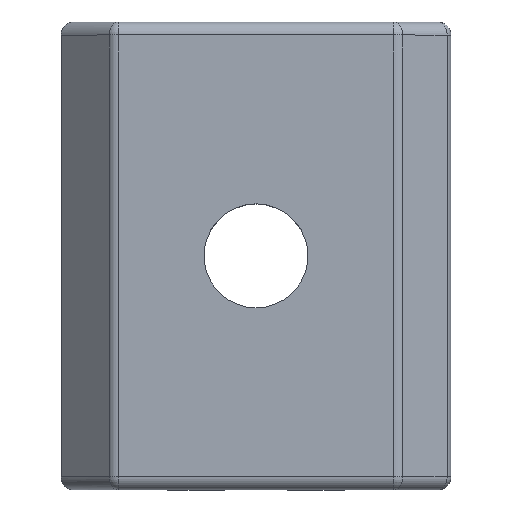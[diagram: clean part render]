
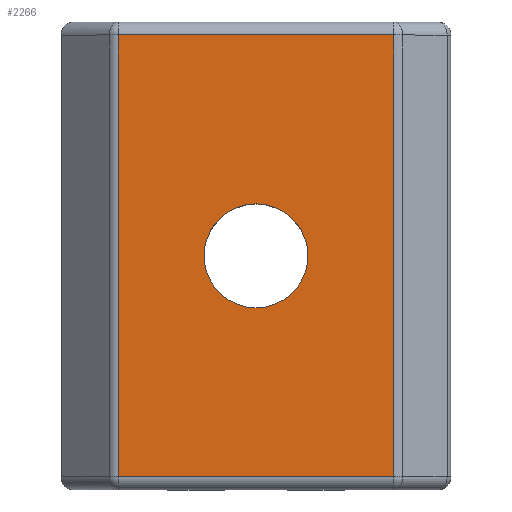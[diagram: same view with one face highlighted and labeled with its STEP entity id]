
A CAD part, top view. The second image highlights one B-rep face of the part: STEP entity #2266.
In plain terms, the highlighted planar face has unit normal (0, 0, 1).
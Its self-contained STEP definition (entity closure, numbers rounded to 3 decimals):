
#3 = EDGE_CURVE ( 'NONE', #253, #1891, #411, .T. ) ;
#118 = VECTOR ( 'NONE', #1510, 1000. ) ;
#134 = CARTESIAN_POINT ( 'NONE',  ( 9.193, -0.5, 1.528 ) ) ;
#173 = ORIENTED_EDGE ( 'NONE', *, *, #1071, .T. ) ;
#181 = CARTESIAN_POINT ( 'NONE',  ( 9.193, -17.5, 1.528 ) ) ;
#235 = LINE ( 'NONE', #1751, #1378 ) ;
#253 = VERTEX_POINT ( 'NONE', #181 ) ;
#341 = FACE_OUTER_BOUND ( 'NONE', #1622, .T. ) ;
#347 = CIRCLE ( 'NONE', #1887, 2. ) ;
#411 = LINE ( 'NONE', #1185, #947 ) ;
#569 = DIRECTION ( 'NONE',  ( 0., 0., -1. ) ) ;
#656 = AXIS2_PLACEMENT_3D ( 'NONE', #795, #2076, #1936 ) ;
#660 = DIRECTION ( 'NONE',  ( 0., -1., 0. ) ) ;
#671 = EDGE_CURVE ( 'NONE', #1796, #874, #966, .T. ) ;
#683 = ORIENTED_EDGE ( 'NONE', *, *, #3, .T. ) ;
#753 = CARTESIAN_POINT ( 'NONE',  ( -1.393, -17.5, 1.528 ) ) ;
#764 = DIRECTION ( 'NONE',  ( 0., 0., 1. ) ) ;
#795 = CARTESIAN_POINT ( 'NONE',  ( 3.9, -9., 1.528 ) ) ;
#803 = FACE_BOUND ( 'NONE', #2293, .T. ) ;
#874 = VERTEX_POINT ( 'NONE', #1252 ) ;
#904 = DIRECTION ( 'NONE',  ( 1., 0., 0. ) ) ;
#924 = ORIENTED_EDGE ( 'NONE', *, *, #1953, .T. ) ;
#941 = DIRECTION ( 'NONE',  ( -1., 0., 0. ) ) ;
#947 = VECTOR ( 'NONE', #1364, 1000. ) ;
#966 = CIRCLE ( 'NONE', #656, 2. ) ;
#967 = CARTESIAN_POINT ( 'NONE',  ( -1.6, -17.5, 1.528 ) ) ;
#1071 = EDGE_CURVE ( 'NONE', #874, #1796, #347, .T. ) ;
#1159 = CARTESIAN_POINT ( 'NONE',  ( 5.9, -9., 1.528 ) ) ;
#1185 = CARTESIAN_POINT ( 'NONE',  ( 9.193, -18., 1.528 ) ) ;
#1252 = CARTESIAN_POINT ( 'NONE',  ( 1.9, -9., 1.528 ) ) ;
#1364 = DIRECTION ( 'NONE',  ( 0., 1., 0. ) ) ;
#1373 = VERTEX_POINT ( 'NONE', #2259 ) ;
#1374 = VECTOR ( 'NONE', #941, 1000. ) ;
#1378 = VECTOR ( 'NONE', #660, 1000. ) ;
#1510 = DIRECTION ( 'NONE',  ( 1., 0., 0. ) ) ;
#1520 = DIRECTION ( 'NONE',  ( 1., 0., 0. ) ) ;
#1527 = ORIENTED_EDGE ( 'NONE', *, *, #1556, .T. ) ;
#1556 = EDGE_CURVE ( 'NONE', #1373, #2103, #235, .T. ) ;
#1615 = ORIENTED_EDGE ( 'NONE', *, *, #671, .T. ) ;
#1622 = EDGE_LOOP ( 'NONE', ( #1833, #683, #924, #1527 ) ) ;
#1651 = CARTESIAN_POINT ( 'NONE',  ( 3.9, -9., 1.528 ) ) ;
#1680 = CARTESIAN_POINT ( 'NONE',  ( -1.6, -0.5, 1.528 ) ) ;
#1699 = CARTESIAN_POINT ( 'NONE',  ( -1.6, -18., 1.528 ) ) ;
#1729 = AXIS2_PLACEMENT_3D ( 'NONE', #1699, #764, #1520 ) ;
#1751 = CARTESIAN_POINT ( 'NONE',  ( -1.393, -18., 1.528 ) ) ;
#1796 = VERTEX_POINT ( 'NONE', #1159 ) ;
#1833 = ORIENTED_EDGE ( 'NONE', *, *, #1963, .T. ) ;
#1842 = LINE ( 'NONE', #967, #118 ) ;
#1887 = AXIS2_PLACEMENT_3D ( 'NONE', #1651, #569, #904 ) ;
#1891 = VERTEX_POINT ( 'NONE', #134 ) ;
#1936 = DIRECTION ( 'NONE',  ( 1., 0., 0. ) ) ;
#1953 = EDGE_CURVE ( 'NONE', #1891, #1373, #1977, .T. ) ;
#1963 = EDGE_CURVE ( 'NONE', #2103, #253, #1842, .T. ) ;
#1977 = LINE ( 'NONE', #1680, #1374 ) ;
#2076 = DIRECTION ( 'NONE',  ( 0., 0., -1. ) ) ;
#2103 = VERTEX_POINT ( 'NONE', #753 ) ;
#2231 = PLANE ( 'NONE',  #1729 ) ;
#2259 = CARTESIAN_POINT ( 'NONE',  ( -1.393, -0.5, 1.528 ) ) ;
#2266 = ADVANCED_FACE ( 'NONE', ( #341, #803 ), #2231, .T. ) ;
#2293 = EDGE_LOOP ( 'NONE', ( #173, #1615 ) ) ;
